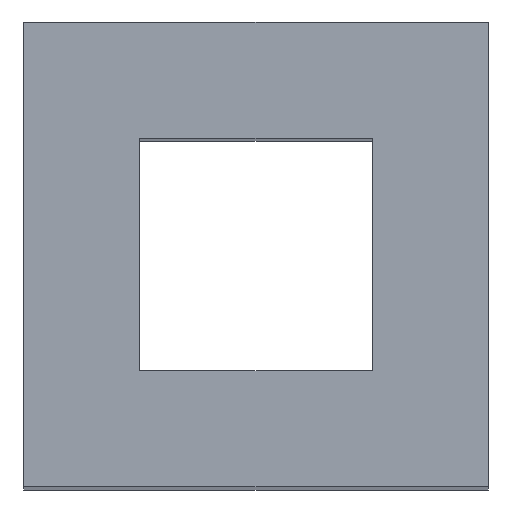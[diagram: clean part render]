
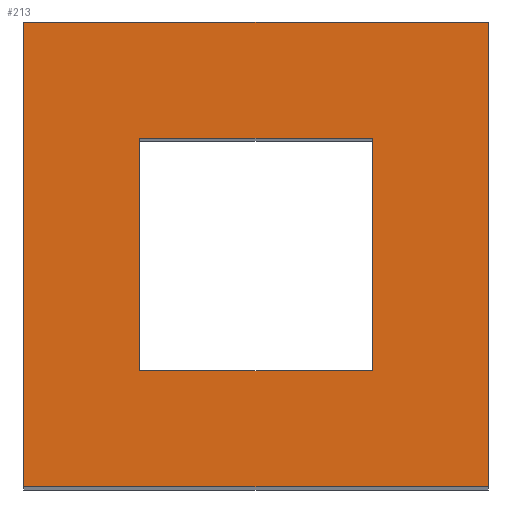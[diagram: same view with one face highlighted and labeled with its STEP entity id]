
A CAD part, top view. The second image highlights one B-rep face of the part: STEP entity #213.
In plain terms, the highlighted planar face has unit normal (0, 0, 1).
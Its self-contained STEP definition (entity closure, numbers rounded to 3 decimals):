
#24 = VERTEX_POINT('',#25);
#25 = CARTESIAN_POINT('',(-196.,-187.913,52.));
#32 = PLANE('',#33);
#33 = AXIS2_PLACEMENT_3D('',#34,#35,#36);
#34 = CARTESIAN_POINT('',(-196.,-187.913,4.));
#35 = DIRECTION('',(1.,0.,-0.));
#36 = DIRECTION('',(0.,0.,1.));
#44 = PLANE('',#45);
#45 = AXIS2_PLACEMENT_3D('',#46,#47,#48);
#46 = CARTESIAN_POINT('',(-196.,-187.913,4.));
#47 = DIRECTION('',(-0.,1.,0.));
#48 = DIRECTION('',(0.,0.,1.));
#85 = VERTEX_POINT('',#86);
#86 = CARTESIAN_POINT('',(-196.,-175.913,52.));
#100 = PLANE('',#101);
#101 = AXIS2_PLACEMENT_3D('',#102,#103,#104);
#102 = CARTESIAN_POINT('',(-196.,-175.913,4.));
#103 = DIRECTION('',(-0.,1.,0.));
#104 = DIRECTION('',(0.,0.,1.));
#112 = EDGE_CURVE('',#24,#85,#113,.T.);
#113 = SURFACE_CURVE('',#114,(#118,#125),.PCURVE_S1.);
#114 = LINE('',#115,#116);
#115 = CARTESIAN_POINT('',(-196.,-187.913,52.));
#116 = VECTOR('',#117,1.);
#117 = DIRECTION('',(-0.,1.,0.));
#118 = PCURVE('',#32,#119);
#119 = DEFINITIONAL_REPRESENTATION('',(#120),#124);
#120 = LINE('',#121,#122);
#121 = CARTESIAN_POINT('',(48.,0.));
#122 = VECTOR('',#123,1.);
#123 = DIRECTION('',(0.,-1.));
#124 = ( GEOMETRIC_REPRESENTATION_CONTEXT(2) 
PARAMETRIC_REPRESENTATION_CONTEXT() REPRESENTATION_CONTEXT('2D SPACE',''
  ) );
#125 = PCURVE('',#126,#131);
#126 = PLANE('',#127);
#127 = AXIS2_PLACEMENT_3D('',#128,#129,#130);
#128 = CARTESIAN_POINT('',(-196.,-187.913,52.));
#129 = DIRECTION('',(0.,0.,1.));
#130 = DIRECTION('',(1.,0.,-0.));
#131 = DEFINITIONAL_REPRESENTATION('',(#132),#136);
#132 = LINE('',#133,#134);
#133 = CARTESIAN_POINT('',(0.,0.));
#134 = VECTOR('',#135,1.);
#135 = DIRECTION('',(0.,1.));
#136 = ( GEOMETRIC_REPRESENTATION_CONTEXT(2) 
PARAMETRIC_REPRESENTATION_CONTEXT() REPRESENTATION_CONTEXT('2D SPACE',''
  ) );
#165 = EDGE_CURVE('',#24,#166,#168,.T.);
#166 = VERTEX_POINT('',#167);
#167 = CARTESIAN_POINT('',(-184.,-187.913,52.));
#168 = SURFACE_CURVE('',#169,(#173,#180),.PCURVE_S1.);
#169 = LINE('',#170,#171);
#170 = CARTESIAN_POINT('',(-196.,-187.913,52.));
#171 = VECTOR('',#172,1.);
#172 = DIRECTION('',(1.,0.,-0.));
#173 = PCURVE('',#44,#174);
#174 = DEFINITIONAL_REPRESENTATION('',(#175),#179);
#175 = LINE('',#176,#177);
#176 = CARTESIAN_POINT('',(48.,0.));
#177 = VECTOR('',#178,1.);
#178 = DIRECTION('',(0.,1.));
#179 = ( GEOMETRIC_REPRESENTATION_CONTEXT(2) 
PARAMETRIC_REPRESENTATION_CONTEXT() REPRESENTATION_CONTEXT('2D SPACE',''
  ) );
#180 = PCURVE('',#126,#181);
#181 = DEFINITIONAL_REPRESENTATION('',(#182),#186);
#182 = LINE('',#183,#184);
#183 = CARTESIAN_POINT('',(0.,0.));
#184 = VECTOR('',#185,1.);
#185 = DIRECTION('',(1.,0.));
#186 = ( GEOMETRIC_REPRESENTATION_CONTEXT(2) 
PARAMETRIC_REPRESENTATION_CONTEXT() REPRESENTATION_CONTEXT('2D SPACE',''
  ) );
#202 = PLANE('',#203);
#203 = AXIS2_PLACEMENT_3D('',#204,#205,#206);
#204 = CARTESIAN_POINT('',(-184.,-187.913,4.));
#205 = DIRECTION('',(1.,0.,-0.));
#206 = DIRECTION('',(0.,0.,1.));
#213 = ADVANCED_FACE('',(#214,#262),#126,.T.);
#214 = FACE_BOUND('',#215,.T.);
#215 = EDGE_LOOP('',(#216,#217,#218,#241));
#216 = ORIENTED_EDGE('',*,*,#112,.F.);
#217 = ORIENTED_EDGE('',*,*,#165,.T.);
#218 = ORIENTED_EDGE('',*,*,#219,.T.);
#219 = EDGE_CURVE('',#166,#220,#222,.T.);
#220 = VERTEX_POINT('',#221);
#221 = CARTESIAN_POINT('',(-184.,-175.913,52.));
#222 = SURFACE_CURVE('',#223,(#227,#234),.PCURVE_S1.);
#223 = LINE('',#224,#225);
#224 = CARTESIAN_POINT('',(-184.,-187.913,52.));
#225 = VECTOR('',#226,1.);
#226 = DIRECTION('',(-0.,1.,0.));
#227 = PCURVE('',#126,#228);
#228 = DEFINITIONAL_REPRESENTATION('',(#229),#233);
#229 = LINE('',#230,#231);
#230 = CARTESIAN_POINT('',(12.,0.));
#231 = VECTOR('',#232,1.);
#232 = DIRECTION('',(0.,1.));
#233 = ( GEOMETRIC_REPRESENTATION_CONTEXT(2) 
PARAMETRIC_REPRESENTATION_CONTEXT() REPRESENTATION_CONTEXT('2D SPACE',''
  ) );
#234 = PCURVE('',#202,#235);
#235 = DEFINITIONAL_REPRESENTATION('',(#236),#240);
#236 = LINE('',#237,#238);
#237 = CARTESIAN_POINT('',(48.,0.));
#238 = VECTOR('',#239,1.);
#239 = DIRECTION('',(0.,-1.));
#240 = ( GEOMETRIC_REPRESENTATION_CONTEXT(2) 
PARAMETRIC_REPRESENTATION_CONTEXT() REPRESENTATION_CONTEXT('2D SPACE',''
  ) );
#241 = ORIENTED_EDGE('',*,*,#242,.F.);
#242 = EDGE_CURVE('',#85,#220,#243,.T.);
#243 = SURFACE_CURVE('',#244,(#248,#255),.PCURVE_S1.);
#244 = LINE('',#245,#246);
#245 = CARTESIAN_POINT('',(-196.,-175.913,52.));
#246 = VECTOR('',#247,1.);
#247 = DIRECTION('',(1.,0.,-0.));
#248 = PCURVE('',#126,#249);
#249 = DEFINITIONAL_REPRESENTATION('',(#250),#254);
#250 = LINE('',#251,#252);
#251 = CARTESIAN_POINT('',(0.,12.));
#252 = VECTOR('',#253,1.);
#253 = DIRECTION('',(1.,0.));
#254 = ( GEOMETRIC_REPRESENTATION_CONTEXT(2) 
PARAMETRIC_REPRESENTATION_CONTEXT() REPRESENTATION_CONTEXT('2D SPACE',''
  ) );
#255 = PCURVE('',#100,#256);
#256 = DEFINITIONAL_REPRESENTATION('',(#257),#261);
#257 = LINE('',#258,#259);
#258 = CARTESIAN_POINT('',(48.,0.));
#259 = VECTOR('',#260,1.);
#260 = DIRECTION('',(0.,1.));
#261 = ( GEOMETRIC_REPRESENTATION_CONTEXT(2) 
PARAMETRIC_REPRESENTATION_CONTEXT() REPRESENTATION_CONTEXT('2D SPACE',''
  ) );
#262 = FACE_BOUND('',#263,.T.);
#263 = EDGE_LOOP('',(#264,#292,#318,#344));
#264 = ORIENTED_EDGE('',*,*,#265,.T.);
#265 = EDGE_CURVE('',#266,#268,#270,.T.);
#266 = VERTEX_POINT('',#267);
#267 = CARTESIAN_POINT('',(-187.,-184.913,52.));
#268 = VERTEX_POINT('',#269);
#269 = CARTESIAN_POINT('',(-193.,-184.913,52.));
#270 = SURFACE_CURVE('',#271,(#275,#281),.PCURVE_S1.);
#271 = LINE('',#272,#273);
#272 = CARTESIAN_POINT('',(-194.5,-184.913,52.));
#273 = VECTOR('',#274,1.);
#274 = DIRECTION('',(-1.,-0.,0.));
#275 = PCURVE('',#126,#276);
#276 = DEFINITIONAL_REPRESENTATION('',(#277),#280);
#277 = B_SPLINE_CURVE_WITH_KNOTS('',1,(#278,#279),.UNSPECIFIED.,.F.,.F.,
  (2,2),(-7.5,-1.5),.PIECEWISE_BEZIER_KNOTS.);
#278 = CARTESIAN_POINT('',(9.,3.));
#279 = CARTESIAN_POINT('',(3.,3.));
#280 = ( GEOMETRIC_REPRESENTATION_CONTEXT(2) 
PARAMETRIC_REPRESENTATION_CONTEXT() REPRESENTATION_CONTEXT('2D SPACE',''
  ) );
#281 = PCURVE('',#282,#287);
#282 = PLANE('',#283);
#283 = AXIS2_PLACEMENT_3D('',#284,#285,#286);
#284 = CARTESIAN_POINT('',(-193.,-184.913,3.));
#285 = DIRECTION('',(-0.,1.,0.));
#286 = DIRECTION('',(0.,0.,1.));
#287 = DEFINITIONAL_REPRESENTATION('',(#288),#291);
#288 = B_SPLINE_CURVE_WITH_KNOTS('',1,(#289,#290),.UNSPECIFIED.,.F.,.F.,
  (2,2),(-7.5,-1.5),.PIECEWISE_BEZIER_KNOTS.);
#289 = CARTESIAN_POINT('',(49.,6.));
#290 = CARTESIAN_POINT('',(49.,0.));
#291 = ( GEOMETRIC_REPRESENTATION_CONTEXT(2) 
PARAMETRIC_REPRESENTATION_CONTEXT() REPRESENTATION_CONTEXT('2D SPACE',''
  ) );
#292 = ORIENTED_EDGE('',*,*,#293,.T.);
#293 = EDGE_CURVE('',#268,#294,#296,.T.);
#294 = VERTEX_POINT('',#295);
#295 = CARTESIAN_POINT('',(-193.,-178.913,52.));
#296 = SURFACE_CURVE('',#297,(#301,#307),.PCURVE_S1.);
#297 = LINE('',#298,#299);
#298 = CARTESIAN_POINT('',(-193.,-186.413,52.));
#299 = VECTOR('',#300,1.);
#300 = DIRECTION('',(-0.,1.,0.));
#301 = PCURVE('',#126,#302);
#302 = DEFINITIONAL_REPRESENTATION('',(#303),#306);
#303 = B_SPLINE_CURVE_WITH_KNOTS('',1,(#304,#305),.UNSPECIFIED.,.F.,.F.,
  (2,2),(1.5,7.5),.PIECEWISE_BEZIER_KNOTS.);
#304 = CARTESIAN_POINT('',(3.,3.));
#305 = CARTESIAN_POINT('',(3.,9.));
#306 = ( GEOMETRIC_REPRESENTATION_CONTEXT(2) 
PARAMETRIC_REPRESENTATION_CONTEXT() REPRESENTATION_CONTEXT('2D SPACE',''
  ) );
#307 = PCURVE('',#308,#313);
#308 = PLANE('',#309);
#309 = AXIS2_PLACEMENT_3D('',#310,#311,#312);
#310 = CARTESIAN_POINT('',(-193.,-184.913,3.));
#311 = DIRECTION('',(1.,0.,-0.));
#312 = DIRECTION('',(0.,0.,1.));
#313 = DEFINITIONAL_REPRESENTATION('',(#314),#317);
#314 = B_SPLINE_CURVE_WITH_KNOTS('',1,(#315,#316),.UNSPECIFIED.,.F.,.F.,
  (2,2),(1.5,7.5),.PIECEWISE_BEZIER_KNOTS.);
#315 = CARTESIAN_POINT('',(49.,0.));
#316 = CARTESIAN_POINT('',(49.,-6.));
#317 = ( GEOMETRIC_REPRESENTATION_CONTEXT(2) 
PARAMETRIC_REPRESENTATION_CONTEXT() REPRESENTATION_CONTEXT('2D SPACE',''
  ) );
#318 = ORIENTED_EDGE('',*,*,#319,.F.);
#319 = EDGE_CURVE('',#320,#294,#322,.T.);
#320 = VERTEX_POINT('',#321);
#321 = CARTESIAN_POINT('',(-187.,-178.913,52.));
#322 = SURFACE_CURVE('',#323,(#327,#333),.PCURVE_S1.);
#323 = LINE('',#324,#325);
#324 = CARTESIAN_POINT('',(-194.5,-178.913,52.));
#325 = VECTOR('',#326,1.);
#326 = DIRECTION('',(-1.,-0.,0.));
#327 = PCURVE('',#126,#328);
#328 = DEFINITIONAL_REPRESENTATION('',(#329),#332);
#329 = B_SPLINE_CURVE_WITH_KNOTS('',1,(#330,#331),.UNSPECIFIED.,.F.,.F.,
  (2,2),(-7.5,-1.5),.PIECEWISE_BEZIER_KNOTS.);
#330 = CARTESIAN_POINT('',(9.,9.));
#331 = CARTESIAN_POINT('',(3.,9.));
#332 = ( GEOMETRIC_REPRESENTATION_CONTEXT(2) 
PARAMETRIC_REPRESENTATION_CONTEXT() REPRESENTATION_CONTEXT('2D SPACE',''
  ) );
#333 = PCURVE('',#334,#339);
#334 = PLANE('',#335);
#335 = AXIS2_PLACEMENT_3D('',#336,#337,#338);
#336 = CARTESIAN_POINT('',(-193.,-178.913,3.));
#337 = DIRECTION('',(-0.,1.,0.));
#338 = DIRECTION('',(0.,0.,1.));
#339 = DEFINITIONAL_REPRESENTATION('',(#340),#343);
#340 = B_SPLINE_CURVE_WITH_KNOTS('',1,(#341,#342),.UNSPECIFIED.,.F.,.F.,
  (2,2),(-7.5,-1.5),.PIECEWISE_BEZIER_KNOTS.);
#341 = CARTESIAN_POINT('',(49.,6.));
#342 = CARTESIAN_POINT('',(49.,0.));
#343 = ( GEOMETRIC_REPRESENTATION_CONTEXT(2) 
PARAMETRIC_REPRESENTATION_CONTEXT() REPRESENTATION_CONTEXT('2D SPACE',''
  ) );
#344 = ORIENTED_EDGE('',*,*,#345,.F.);
#345 = EDGE_CURVE('',#266,#320,#346,.T.);
#346 = SURFACE_CURVE('',#347,(#351,#357),.PCURVE_S1.);
#347 = LINE('',#348,#349);
#348 = CARTESIAN_POINT('',(-187.,-186.413,52.));
#349 = VECTOR('',#350,1.);
#350 = DIRECTION('',(-0.,1.,0.));
#351 = PCURVE('',#126,#352);
#352 = DEFINITIONAL_REPRESENTATION('',(#353),#356);
#353 = B_SPLINE_CURVE_WITH_KNOTS('',1,(#354,#355),.UNSPECIFIED.,.F.,.F.,
  (2,2),(1.5,7.5),.PIECEWISE_BEZIER_KNOTS.);
#354 = CARTESIAN_POINT('',(9.,3.));
#355 = CARTESIAN_POINT('',(9.,9.));
#356 = ( GEOMETRIC_REPRESENTATION_CONTEXT(2) 
PARAMETRIC_REPRESENTATION_CONTEXT() REPRESENTATION_CONTEXT('2D SPACE',''
  ) );
#357 = PCURVE('',#358,#363);
#358 = PLANE('',#359);
#359 = AXIS2_PLACEMENT_3D('',#360,#361,#362);
#360 = CARTESIAN_POINT('',(-187.,-184.913,3.));
#361 = DIRECTION('',(1.,0.,-0.));
#362 = DIRECTION('',(0.,0.,1.));
#363 = DEFINITIONAL_REPRESENTATION('',(#364),#367);
#364 = B_SPLINE_CURVE_WITH_KNOTS('',1,(#365,#366),.UNSPECIFIED.,.F.,.F.,
  (2,2),(1.5,7.5),.PIECEWISE_BEZIER_KNOTS.);
#365 = CARTESIAN_POINT('',(49.,0.));
#366 = CARTESIAN_POINT('',(49.,-6.));
#367 = ( GEOMETRIC_REPRESENTATION_CONTEXT(2) 
PARAMETRIC_REPRESENTATION_CONTEXT() REPRESENTATION_CONTEXT('2D SPACE',''
  ) );
